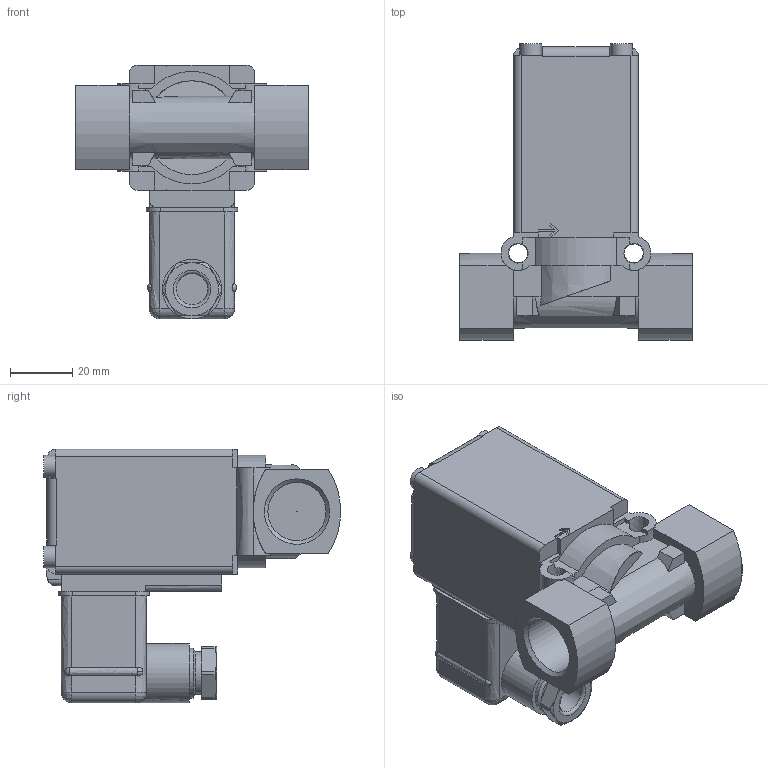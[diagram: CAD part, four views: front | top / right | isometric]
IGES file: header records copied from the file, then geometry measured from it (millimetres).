
Start section: Data from Parasolid IGES Translator 26.0.171, Copyright(c) 2006 Siemens PLM Software. All Rights Reserved.
Global section: file name: 0256-145788-2_2-way_Solenoid_Valve.igs; native system: By Siemens PLM Incorporated; preprocessor: XPlus GENERIC/IGES 26.0.171; author: Noname; organization: Noname; date: 20240805.151121; units: millimetre
Bounding box: 74.5 x 95.02 x 81.2 mm (x, y, z)
Surface area: 30241.5 mm2 (no closed solid volume)
Topology: 0 solids, 0 shells, 248 faces, 1336 edges, 1315 vertices
Faces by surface type: extrusion 159, revolution 89
